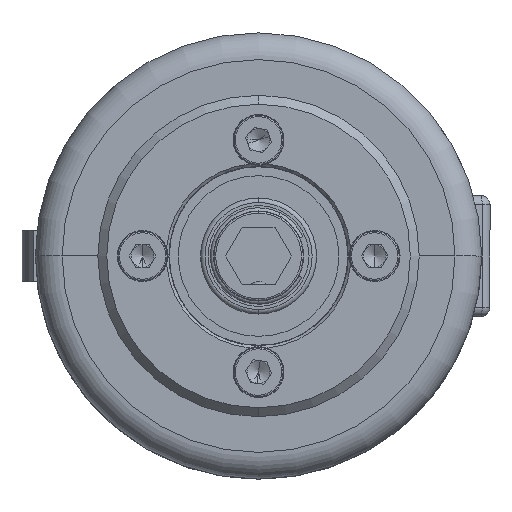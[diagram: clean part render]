
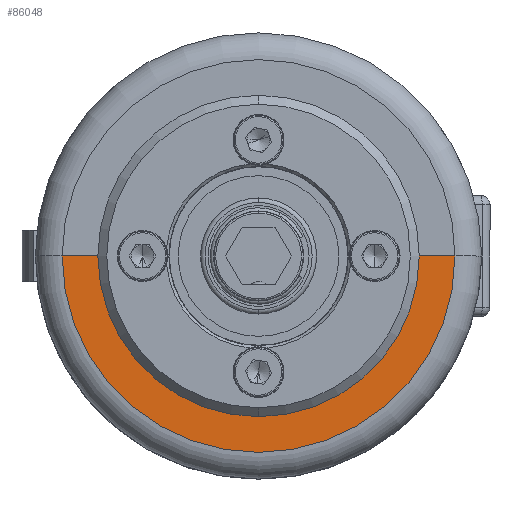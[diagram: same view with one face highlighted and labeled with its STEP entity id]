
A CAD part, left-side view. The second image highlights one B-rep face of the part: STEP entity #86048.
In plain terms, the highlighted planar face has unit normal (-1, 0, 0).
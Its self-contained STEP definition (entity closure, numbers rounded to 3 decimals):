
#608 = EDGE_LOOP ( 'NONE', ( #86535, #74009, #40439, #128024 ) ) ;
#1166 = CARTESIAN_POINT ( 'NONE',  ( -43.55, 0., 0. ) ) ;
#5316 = VERTEX_POINT ( 'NONE', #49142 ) ;
#13955 = CARTESIAN_POINT ( 'NONE',  ( -43.55, 15.5, 0. ) ) ;
#21445 = DIRECTION ( 'NONE',  ( 0., 1., 0. ) ) ;
#21649 = EDGE_CURVE ( 'NONE', #51386, #5316, #53340, .T. ) ;
#23957 = EDGE_CURVE ( 'NONE', #5316, #39477, #104240, .T. ) ;
#28087 = AXIS2_PLACEMENT_3D ( 'NONE', #47848, #34664, #21445 ) ;
#34664 = DIRECTION ( 'NONE',  ( -1., 0., 0. ) ) ;
#35028 = VECTOR ( 'NONE', #77616, 1000. ) ;
#35771 = DIRECTION ( 'NONE',  ( 0., 1., 0. ) ) ;
#36102 = EDGE_CURVE ( 'NONE', #103326, #51386, #62053, .T. ) ;
#38560 = AXIS2_PLACEMENT_3D ( 'NONE', #81110, #67956, #54785 ) ;
#39477 = VERTEX_POINT ( 'NONE', #63310 ) ;
#40439 = ORIENTED_EDGE ( 'NONE', *, *, #23957, .T. ) ;
#41227 = AXIS2_PLACEMENT_3D ( 'NONE', #1166, #116758, #103658 ) ;
#44708 = FACE_OUTER_BOUND ( 'NONE', #608, .T. ) ;
#47848 = CARTESIAN_POINT ( 'NONE',  ( -43.55, 0., 0. ) ) ;
#48958 = CARTESIAN_POINT ( 'NONE',  ( -43.55, 27.132, 0. ) ) ;
#49142 = CARTESIAN_POINT ( 'NONE',  ( -43.55, -22., 0. ) ) ;
#51386 = VERTEX_POINT ( 'NONE', #104899 ) ;
#53340 = CIRCLE ( 'NONE', #41227, 22. ) ;
#54785 = DIRECTION ( 'NONE',  ( 0., 1., 0. ) ) ;
#60927 = PLANE ( 'NONE',  #28087 ) ;
#62053 = LINE ( 'NONE', #48958, #91036 ) ;
#63310 = CARTESIAN_POINT ( 'NONE',  ( -43.55, -15.5, 0. ) ) ;
#67956 = DIRECTION ( 'NONE',  ( -1., 0., 0. ) ) ;
#74009 = ORIENTED_EDGE ( 'NONE', *, *, #21649, .T. ) ;
#77616 = DIRECTION ( 'NONE',  ( 0., 1., 0. ) ) ;
#81110 = CARTESIAN_POINT ( 'NONE',  ( -43.55, 0., 0. ) ) ;
#86048 = ADVANCED_FACE ( 'NONE', ( #44708 ), #60927, .T. ) ;
#86535 = ORIENTED_EDGE ( 'NONE', *, *, #36102, .T. ) ;
#87660 = CIRCLE ( 'NONE', #38560, 15.5 ) ;
#90904 = CARTESIAN_POINT ( 'NONE',  ( -43.55, 27.132, 0. ) ) ;
#91036 = VECTOR ( 'NONE', #35771, 1000. ) ;
#103326 = VERTEX_POINT ( 'NONE', #13955 ) ;
#103658 = DIRECTION ( 'NONE',  ( 0., 1., 0. ) ) ;
#103989 = EDGE_CURVE ( 'NONE', #103326, #39477, #87660, .T. ) ;
#104240 = LINE ( 'NONE', #90904, #35028 ) ;
#104899 = CARTESIAN_POINT ( 'NONE',  ( -43.55, 22., 0. ) ) ;
#116758 = DIRECTION ( 'NONE',  ( -1., 0., 0. ) ) ;
#128024 = ORIENTED_EDGE ( 'NONE', *, *, #103989, .F. ) ;
